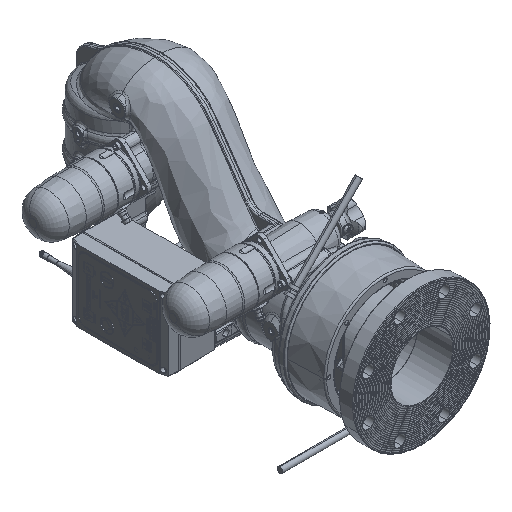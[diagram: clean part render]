
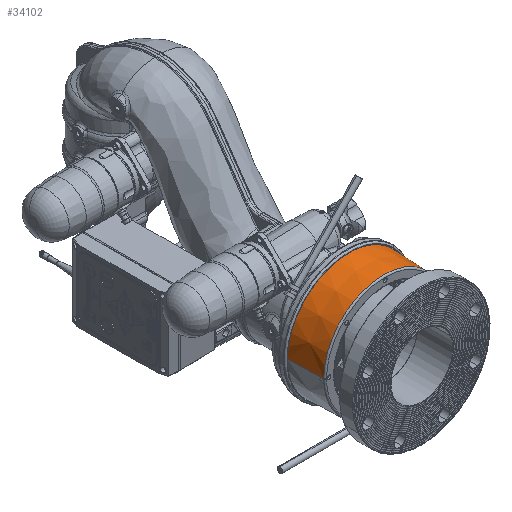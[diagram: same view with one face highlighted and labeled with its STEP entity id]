
A CAD part, isometric view. The second image highlights one B-rep face of the part: STEP entity #34102.
In plain terms, the highlighted conical face has half-angle 2 degrees and reference radius 98.641 mm.
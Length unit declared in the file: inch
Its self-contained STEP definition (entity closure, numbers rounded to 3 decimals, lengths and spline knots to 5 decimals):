
#2271 = DIRECTION ( 'NONE',  ( 0., 1., 0. ) ) ;
#5322 = EDGE_CURVE ( 'NONE', #139135, #107074, #115219, .T. ) ;
#9913 = ORIENTED_EDGE ( 'NONE', *, *, #97943, .T. ) ;
#9980 = DIRECTION ( 'NONE',  ( 1., 0., 0. ) ) ;
#19492 = ORIENTED_EDGE ( 'NONE', *, *, #155478, .F. ) ;
#26270 = ORIENTED_EDGE ( 'NONE', *, *, #5322, .T. ) ;
#28963 = AXIS2_PLACEMENT_3D ( 'NONE', #139985, #140671, #93087 ) ;
#30656 = CARTESIAN_POINT ( 'NONE',  ( 3.88667, -7.13207, 0. ) ) ;
#34102 = ADVANCED_FACE ( 'NONE', ( #133438 ), #62324, .T. ) ;
#35537 = DIRECTION ( 'NONE',  ( 0.035, 0.999, 0. ) ) ;
#43842 = VERTEX_POINT ( 'NONE', #65401 ) ;
#54435 = CARTESIAN_POINT ( 'NONE',  ( -3.88351, -7.22255, 0. ) ) ;
#61381 = EDGE_LOOP ( 'NONE', ( #26270, #9913, #19492, #168729 ) ) ;
#62324 = CONICAL_SURFACE ( 'NONE', #28963, 3.88351, 0.035 ) ;
#63933 = CARTESIAN_POINT ( 'NONE',  ( 0., -7.13207, 0. ) ) ;
#65343 = CIRCLE ( 'NONE', #92213, 3.96627 ) ;
#65401 = CARTESIAN_POINT ( 'NONE',  ( -3.96627, -4.85255, 0. ) ) ;
#83874 = DIRECTION ( 'NONE',  ( -1., 0., 0. ) ) ;
#92213 = AXIS2_PLACEMENT_3D ( 'NONE', #181154, #2271, #83874 ) ;
#93087 = DIRECTION ( 'NONE',  ( -1., 0., 0. ) ) ;
#97943 = EDGE_CURVE ( 'NONE', #107074, #145560, #159855, .T. ) ;
#100610 = LINE ( 'NONE', #54435, #138708 ) ;
#107074 = VERTEX_POINT ( 'NONE', #30656 ) ;
#115219 = CIRCLE ( 'NONE', #150798, 3.88667 ) ;
#116759 = VECTOR ( 'NONE', #35537, 39.37008 ) ;
#133438 = FACE_OUTER_BOUND ( 'NONE', #61381, .T. ) ;
#138708 = VECTOR ( 'NONE', #171459, 39.37008 ) ;
#139135 = VERTEX_POINT ( 'NONE', #178916 ) ;
#139985 = CARTESIAN_POINT ( 'NONE',  ( 0., -7.22255, 0. ) ) ;
#140671 = DIRECTION ( 'NONE',  ( 0., 1., 0. ) ) ;
#145560 = VERTEX_POINT ( 'NONE', #160466 ) ;
#150422 = CARTESIAN_POINT ( 'NONE',  ( 3.88351, -7.22255, 0. ) ) ;
#150798 = AXIS2_PLACEMENT_3D ( 'NONE', #63933, #160464, #9980 ) ;
#152006 = EDGE_CURVE ( 'NONE', #139135, #43842, #100610, .T. ) ;
#155478 = EDGE_CURVE ( 'NONE', #43842, #145560, #65343, .T. ) ;
#159855 = LINE ( 'NONE', #150422, #116759 ) ;
#160464 = DIRECTION ( 'NONE',  ( 0., 1., 0. ) ) ;
#160466 = CARTESIAN_POINT ( 'NONE',  ( 3.96627, -4.85255, 0. ) ) ;
#168729 = ORIENTED_EDGE ( 'NONE', *, *, #152006, .F. ) ;
#171459 = DIRECTION ( 'NONE',  ( -0.035, 0.999, 0. ) ) ;
#178916 = CARTESIAN_POINT ( 'NONE',  ( -3.88667, -7.13207, 0. ) ) ;
#181154 = CARTESIAN_POINT ( 'NONE',  ( 0., -4.85255, 0. ) ) ;
